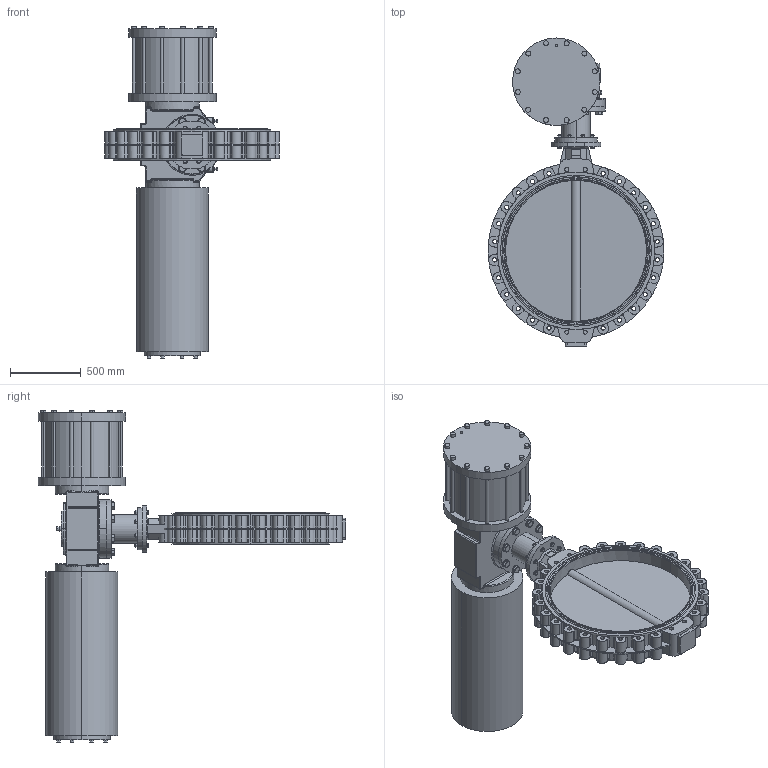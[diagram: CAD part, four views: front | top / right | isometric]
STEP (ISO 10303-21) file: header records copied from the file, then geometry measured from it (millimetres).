
FILE_DESCRIPTION (( 'STEP AP214' ), '1' );
FILE_NAME ('67402.step', '2020-10-23T12:39:50', ( '' ), ( '' ), 'SwSTEP 2.0', 'SolidWorks 2019', '' );
FILE_SCHEMA (( 'AUTOMOTIVE_DESIGN' ));
Length unit declared in the file: millimetre
Products named in the file (12): 6kt-Schr DIN 933_M16x90; 6kt-Schr DIN 933_M30x70; 67702; 6kt-Mu DIN 934_M16; TL20-1000_M01; 67402; Passfeder DIN 6885 A_20_12x100; 67411; U-Scheibe DIN 125 A_M16; SY01F35-550 SR6; U-Scheibe DIN 125 A_M30; Passfeder DIN 6885 B_40_22x140
Assembly tree (54 placements, depth 2):
  67402
    TL20-1000_M01
    SY01F35-550 SR6
    U-Scheibe DIN 125 A_M16  x16
    6kt-Schr DIN 933_M16x90  x8
    67702
    6kt-Mu DIN 934_M16  x8
    6kt-Schr DIN 933_M30x70  x8
    U-Scheibe DIN 125 A_M30  x8
    67411
    Passfeder DIN 6885 B_40_22x140
    Passfeder DIN 6885 A_20_12x100
Bounding box: 1245.56 x 2182 x 2353 mm (x, y, z)
Volume: 555546419.6 mm3; surface area: 11686427.8 mm2
Topology: 56 solids, 56 shells, 1903 faces, 4542 edges, 2832 vertices
Faces by surface type: cylinder 779, plane 768, cone 231, bspline 67, torus 58
Entity records: 46093 total; most frequent: CARTESIAN_POINT 12747, DIRECTION 6995, ORIENTED_EDGE 6296, EDGE_CURVE 3148, AXIS2_PLACEMENT_3D 2826, VERTEX_POINT 2012, CIRCLE 1597, EDGE_LOOP 1424
